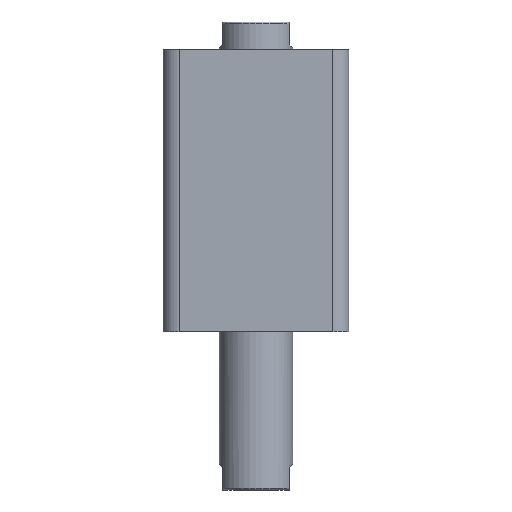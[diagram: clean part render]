
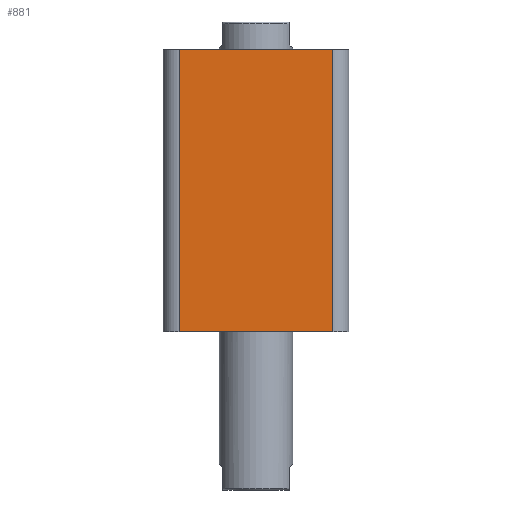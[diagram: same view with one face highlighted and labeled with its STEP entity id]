
A CAD part, front view. The second image highlights one B-rep face of the part: STEP entity #881.
In plain terms, the highlighted planar face has unit normal (0, -1, 0).
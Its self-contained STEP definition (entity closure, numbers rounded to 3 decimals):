
#54 = VERTEX_POINT ( 'NONE', #3236 ) ;
#179 = VERTEX_POINT ( 'NONE', #3196 ) ;
#180 = VERTEX_POINT ( 'NONE', #3200 ) ;
#183 = VERTEX_POINT ( 'NONE', #3193 ) ;
#627 = AXIS2_PLACEMENT_3D ( 'NONE', #2590, #2594, #2595 ) ;
#881 = ADVANCED_FACE ( 'NONE', ( #1721 ), #2592, .F. ) ;
#1085 = ORIENTED_EDGE ( 'NONE', *, *, #3064, .T. ) ;
#1089 = ORIENTED_EDGE ( 'NONE', *, *, #3066, .F. ) ;
#1099 = ORIENTED_EDGE ( 'NONE', *, *, #3065, .T. ) ;
#1100 = ORIENTED_EDGE ( 'NONE', *, *, #3067, .T. ) ;
#1309 = EDGE_LOOP ( 'NONE', ( #1085, #1099, #1089, #1100 ) ) ;
#1721 = FACE_OUTER_BOUND ( 'NONE', #1309, .T. ) ;
#1785 = LINE ( 'NONE', #2802, #1792 ) ;
#1787 = LINE ( 'NONE', #2807, #1790 ) ;
#1790 = VECTOR ( 'NONE', #2808, 1000. ) ;
#1791 = LINE ( 'NONE', #2810, #1794 ) ;
#1792 = VECTOR ( 'NONE', #2809, 1000. ) ;
#1793 = LINE ( 'NONE', #2812, #1796 ) ;
#1794 = VECTOR ( 'NONE', #2811, 1000. ) ;
#1796 = VECTOR ( 'NONE', #2813, 1000. ) ;
#2590 = CARTESIAN_POINT ( 'NONE',  ( -57., -57., 173. ) ) ;
#2592 = PLANE ( 'NONE',  #627 ) ;
#2594 = DIRECTION ( 'NONE',  ( 0., 1., 0. ) ) ;
#2595 = DIRECTION ( 'NONE',  ( 0., 0., 1. ) ) ;
#2802 = CARTESIAN_POINT ( 'NONE',  ( 47., -57., 173. ) ) ;
#2807 = CARTESIAN_POINT ( 'NONE',  ( -57., -57., 0. ) ) ;
#2808 = DIRECTION ( 'NONE',  ( 1., 0., 0. ) ) ;
#2809 = DIRECTION ( 'NONE',  ( 0., 0., 1. ) ) ;
#2810 = CARTESIAN_POINT ( 'NONE',  ( -57., -57., 173. ) ) ;
#2811 = DIRECTION ( 'NONE',  ( 1., 0., 0. ) ) ;
#2812 = CARTESIAN_POINT ( 'NONE',  ( -47., -57., 173. ) ) ;
#2813 = DIRECTION ( 'NONE',  ( 0., 0., -1. ) ) ;
#3064 = EDGE_CURVE ( 'NONE', #54, #180, #1787, .T. ) ;
#3065 = EDGE_CURVE ( 'NONE', #180, #179, #1785, .T. ) ;
#3066 = EDGE_CURVE ( 'NONE', #183, #179, #1791, .T. ) ;
#3067 = EDGE_CURVE ( 'NONE', #183, #54, #1793, .T. ) ;
#3193 = CARTESIAN_POINT ( 'NONE',  ( -47., -57., 173. ) ) ;
#3196 = CARTESIAN_POINT ( 'NONE',  ( 47., -57., 173. ) ) ;
#3200 = CARTESIAN_POINT ( 'NONE',  ( 47., -57., 0. ) ) ;
#3236 = CARTESIAN_POINT ( 'NONE',  ( -47., -57., 0. ) ) ;
